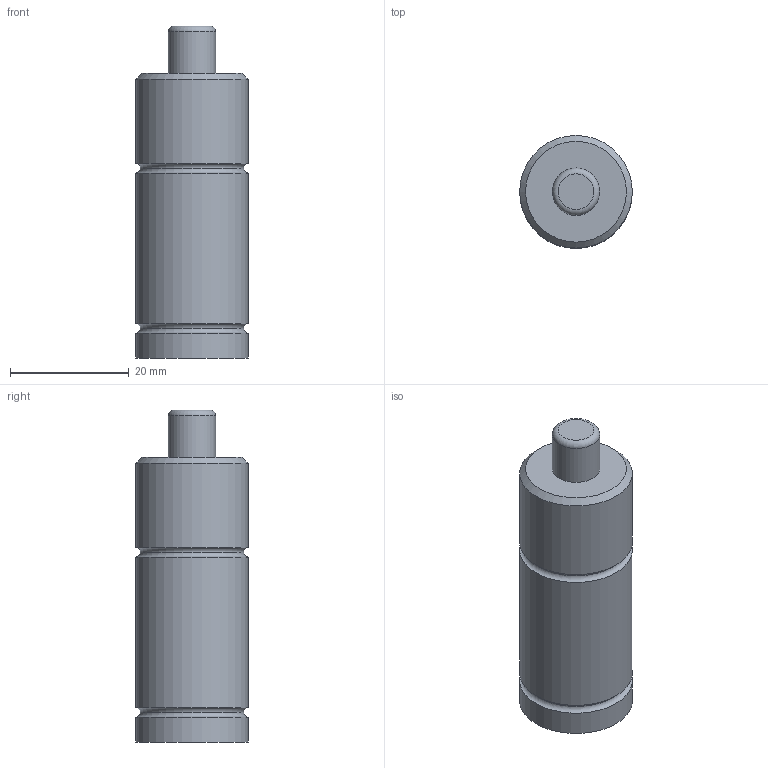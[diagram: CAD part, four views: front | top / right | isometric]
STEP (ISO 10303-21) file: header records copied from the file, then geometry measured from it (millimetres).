
FILE_DESCRIPTION(('FreeCAD Model'),'2;1');
FILE_NAME('Open CASCADE Shape Model','2024-11-14T10:54:14',('Author'),( ''),'Open CASCADE STEP processor 7.6','FreeCAD','Unknown');
FILE_SCHEMA(('AUTOMOTIVE_DESIGN { 1 0 10303 214 1 1 1 1 }'));
Length unit declared in the file: millimetre
Products named in the file (5): Unnamed; Part; Fillet; Part005; Cut001
Assembly tree (4 placements, depth 3):
  Unnamed
    Part
      Fillet
    Part005
      Cut001
Bounding box: 19 x 19 x 56 mm (x, y, z)
Volume: 13635.7 mm3; surface area: 3930 mm2
Topology: 2 solids, 2 shells, 16 faces, 25 edges, 14 vertices
Faces by surface type: cylinder 5, torus 5, plane 5, cone 1
Full cylindrical faces by diameter (mm): 6 x1, 8 x1, 19 x3
Entity records: 466 total; most frequent: DIRECTION 86, CARTESIAN_POINT 60, ORIENTED_EDGE 50, AXIS2_PLACEMENT_3D 40, EDGE_CURVE 25, CIRCLE 19, FACE_BOUND 17, EDGE_LOOP 17
